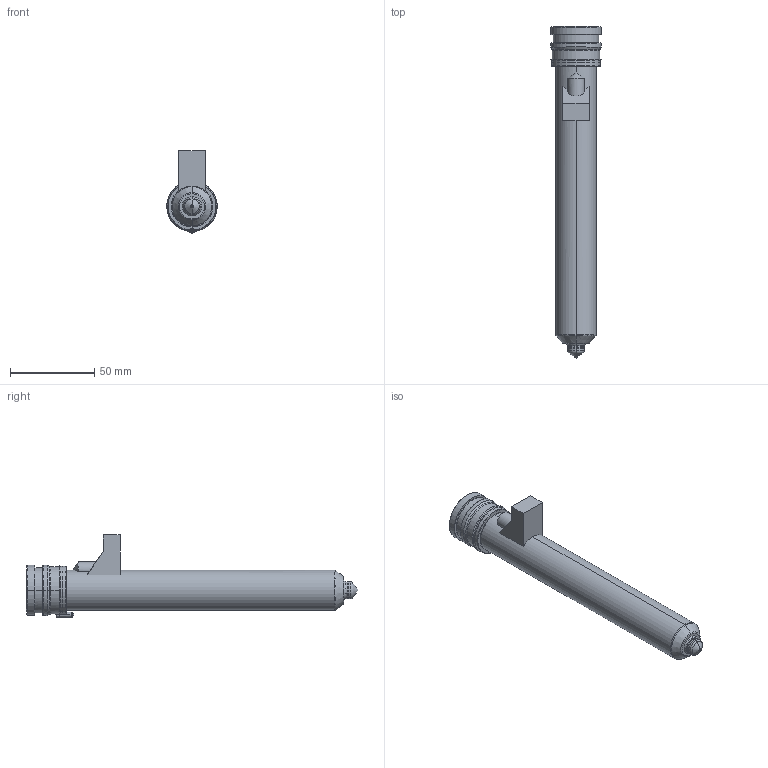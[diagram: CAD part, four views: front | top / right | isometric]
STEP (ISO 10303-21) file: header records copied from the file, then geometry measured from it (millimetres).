
FILE_DESCRIPTION((''),'2;1');
FILE_NAME('MPN-10-29-TX10-176-M','2026-02-05T12:51:53',('UPTIO'),('Thermoplay S.p.A.'),'CREO PARAMETRIC BY PTC INC, 2023494','CREO PARAMETRIC BY PTC INC, 2023494','');
FILE_SCHEMA(('CONFIG_CONTROL_DESIGN','SHAPE_APPEARANCE_LAYERS_GROUPS'));
Length unit declared in the file: millimetre
Products named in the file (1): MPN-10-29-TX10-176-M
Bounding box: 30 x 197.5 x 49 mm (x, y, z)
Volume: 61113.7 mm3; surface area: 62738.5 mm2
Topology: 3 solids, 5 shells, 541 faces, 1383 edges, 844 vertices
Faces by surface type: cylinder 177, plane 146, bspline 73, torus 67, cone 64, sphere 10, extrusion 4
Entity records: 29295 total; most frequent: CARTESIAN_POINT 13529, ORIENTED_EDGE 2748, DIRECTION 2568, EDGE_CURVE 1374, AXIS2_PLACEMENT_3D 1017, VERTEX_POINT 844, EDGE_LOOP 570, CIRCLE 552
